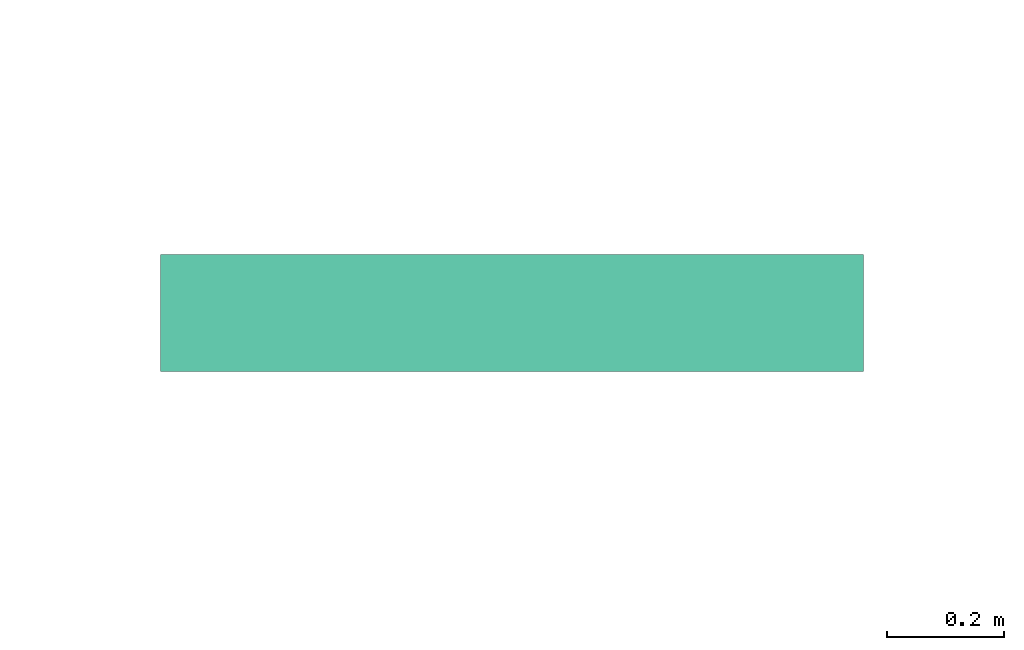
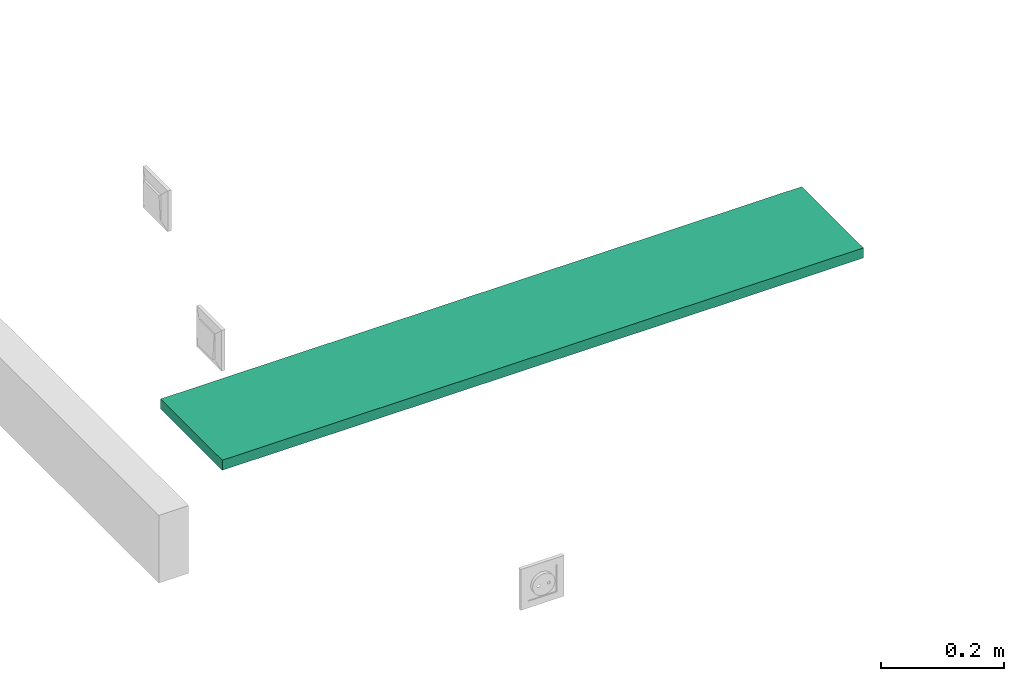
# One storey, part 12 of 153: 1 flow terminal.
"""IFC2X3 building model written with IfcOpenShell, lengths in metres."""

from ifc_helpers import new_model, entity, si_unit, converted_unit, derived_unit, direction, frame, origin, origin_2d_with_axis, place, context, subcontext, project, spatial, rectangle, extrude, source, transform, mapped, type_object, type_shapes, element, save


model = new_model("IFC2X3")

# Units and contexts
model_context = context("Model", 3, precision=1e-05, world=origin(), true_north=direction((6.12303176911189e-17, 1.0)))
body_context = subcontext(model_context, "Body", "Model", "MODEL_VIEW")
ifc_project = project(units=[si_unit("LENGTHUNIT", "METRE"), si_unit("AREAUNIT", "SQUARE_METRE"), si_unit("VOLUMEUNIT", "CUBIC_METRE"), converted_unit("PLANEANGLEUNIT", "DEGREE", entity("IfcRatioMeasure", 0.0174532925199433), si_unit("PLANEANGLEUNIT", "RADIAN"), dimensions=[0, 0, 0, 0, 0, 0, 0]), si_unit("MASSUNIT", "GRAM", prefix="KILO"), derived_unit("MASSDENSITYUNIT", [(si_unit("MASSUNIT", "GRAM", prefix="KILO"), 1), (si_unit("LENGTHUNIT", "METRE"), -3)]), si_unit("TIMEUNIT", "SECOND"), si_unit("FREQUENCYUNIT", "HERTZ"), si_unit("THERMODYNAMICTEMPERATUREUNIT", "DEGREE_CELSIUS"), derived_unit("THERMALTRANSMITTANCEUNIT", [(si_unit("MASSUNIT", "GRAM", prefix="KILO"), 1), (si_unit("THERMODYNAMICTEMPERATUREUNIT", "KELVIN"), -1), (si_unit("TIMEUNIT", "SECOND"), -3)]), derived_unit("VOLUMETRICFLOWRATEUNIT", [(si_unit("LENGTHUNIT", "METRE"), 3), (si_unit("TIMEUNIT", "SECOND"), -1)]), si_unit("ELECTRICCURRENTUNIT", "AMPERE"), si_unit("ELECTRICVOLTAGEUNIT", "VOLT"), si_unit("POWERUNIT", "WATT"), si_unit("FORCEUNIT", "NEWTON"), si_unit("ILLUMINANCEUNIT", "LUX"), si_unit("LUMINOUSFLUXUNIT", "LUMEN"), si_unit("LUMINOUSINTENSITYUNIT", "CANDELA"), derived_unit("USERDEFINED", [(si_unit("MASSUNIT", "GRAM", prefix="KILO"), -1), (si_unit("LENGTHUNIT", "METRE"), -2), (si_unit("TIMEUNIT", "SECOND"), 3), (si_unit("LUMINOUSFLUXUNIT", "LUMEN"), 1)]), derived_unit("LINEARVELOCITYUNIT", [(si_unit("LENGTHUNIT", "METRE"), 1), (si_unit("TIMEUNIT", "SECOND"), -1)]), si_unit("PRESSUREUNIT", "PASCAL"), derived_unit("USERDEFINED", [(si_unit("LENGTHUNIT", "METRE"), -2), (si_unit("MASSUNIT", "GRAM", prefix="KILO"), 1), (si_unit("TIMEUNIT", "SECOND"), -2)])], contexts=[model_context])

# Site, building, storey
site_placement = place(None, origin())
site = spatial("IfcSite", under=ifc_project, at=site_placement, Name="Default", CompositionType="ELEMENT")
building_placement = place(site_placement, origin())
building = spatial("IfcBuilding", under=site, at=building_placement, CompositionType="ELEMENT")
storey_placement = place(building_placement, frame((0.0, 0.0, -4.62)))
storey = spatial("IfcBuildingStorey", under=building, at=storey_placement, Name="S02", CompositionType="ELEMENT", Elevation=-4.62)

# Flow terminal
light_fixture_type = type_object("IfcLightFixtureType", Name="B_Réglete étanche", PredefinedType="NOTDEFINED")
shared_shape = source(origin(), body_context, "Body", "SweptSolid", [
    extrude(rectangle(XDim=0.199999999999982, YDim=1.2, at=origin_2d_with_axis()), frame((0.0, 0.0, 0.0), z_axis=(0.0, 0.0, 1.0), x_axis=(0.0, 1.0, 0.0)), (0.0, 0.0, 1.0), 0.02),
])
type_shapes(light_fixture_type, [shared_shape])
flow_terminal_placement = place(storey_placement, frame((51.4766087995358, -192.243084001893, 4.175), z_axis=(0.0, 0.0, -1.0), x_axis=(-1.0, 0.0, 0.0)))
element("IfcFlowTerminal", 1, at=flow_terminal_placement, inside=storey, type_object=light_fixture_type, Name="II_PREF_Type B Réglette étanche:B_Réglete étanche", ObjectType="II_PREF_Type B Réglette étanche:B_Réglete étanche", context=body_context, shape_type="MappedRepresentation", body=[
    mapped(shared_shape, transform((0.0, 0.0, 0.0), scale=1.0)),
])

save(model, "model.ifc")
